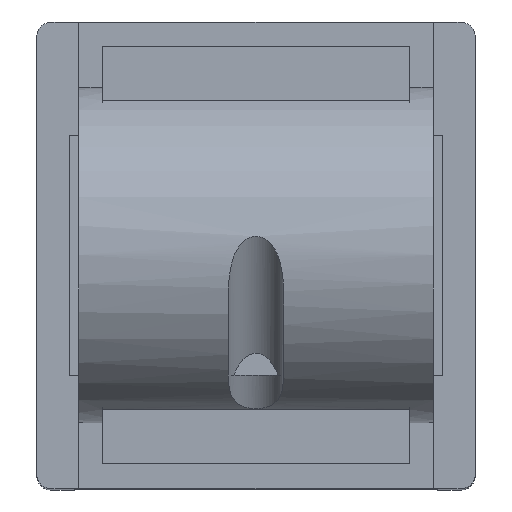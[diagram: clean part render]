
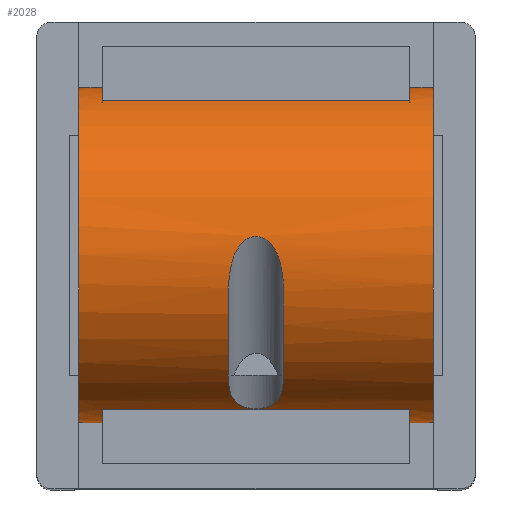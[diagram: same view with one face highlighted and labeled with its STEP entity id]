
A CAD part, top view. The second image highlights one B-rep face of the part: STEP entity #2028.
In plain terms, the highlighted cylindrical face has radius 18 mm (diameter 36 mm), a partial arc.
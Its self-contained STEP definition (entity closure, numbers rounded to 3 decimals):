
#17=FACE_BOUND('',#677,.T.);
#53=B_SPLINE_CURVE_WITH_KNOTS('',3,(#3172,#3173,#3174,#3175,#3176,#3177,
#3178,#3179,#3180,#3181,#3182,#3183,#3184,#3185,#3186,#3187,#3188,#3189,
#3190,#3191,#3192,#3193,#3194,#3195,#3196,#3197,#3198,#3199,#3200,#3201,
#3202,#3203,#3204,#3205,#3206,#3207,#3208,#3209,#3210,#3211,#3212,#3213,
#3214,#3215,#3216,#3217,#3218,#3219,#3220,#3221,#3222,#3223,#3224,#3225,
#3226,#3227,#3228,#3229),.UNSPECIFIED.,.T.,.F.,(4,2,2,2,2,2,2,2,2,2,2,2,
2,2,2,2,2,2,2,2,2,2,2,2,2,2,2,2,4),(-4.825,-4.735,
-4.644,-4.535,-4.417,-4.299,
-3.959,-3.619,-3.279,-2.939,
-2.821,-2.703,-2.594,-2.503,
-2.413,-2.322,-2.231,-2.122,
-2.004,-1.886,-1.546,-1.206,
-0.867,-0.527,-0.409,-0.291,
-0.181,-0.091,0.),.UNSPECIFIED.);
#164=LINE('',#3121,#355);
#168=LINE('',#3128,#359);
#173=LINE('',#3141,#364);
#181=LINE('',#3163,#372);
#182=LINE('',#3167,#373);
#183=LINE('',#3170,#374);
#355=VECTOR('',#2451,1.);
#359=VECTOR('',#2455,1.);
#364=VECTOR('',#2466,1.);
#372=VECTOR('',#2490,1.);
#373=VECTOR('',#2493,1.);
#374=VECTOR('',#2496,1.);
#498=CYLINDRICAL_SURFACE('',#2168,18.);
#559=FACE_OUTER_BOUND('',#676,.T.);
#676=EDGE_LOOP('',(#1504,#1505,#1506,#1507,#1508,#1509,#1510,#1511,#1512,
#1513,#1514,#1515));
#677=EDGE_LOOP('',(#1516));
#820=CIRCLE('',#2161,18.);
#821=CIRCLE('',#2167,18.);
#822=CIRCLE('',#2169,18.);
#823=CIRCLE('',#2170,18.);
#824=CIRCLE('',#2171,18.);
#825=CIRCLE('',#2172,18.);
#963=VERTEX_POINT('',#3116);
#964=VERTEX_POINT('',#3118);
#965=VERTEX_POINT('',#3120);
#968=VERTEX_POINT('',#3126);
#969=VERTEX_POINT('',#3130);
#973=VERTEX_POINT('',#3140);
#977=VERTEX_POINT('',#3158);
#978=VERTEX_POINT('',#3160);
#979=VERTEX_POINT('',#3162);
#980=VERTEX_POINT('',#3164);
#981=VERTEX_POINT('',#3166);
#982=VERTEX_POINT('',#3168);
#983=VERTEX_POINT('',#3171);
#1164=EDGE_CURVE('',#965,#964,#164,.T.);
#1168=EDGE_CURVE('',#963,#968,#168,.T.);
#1169=EDGE_CURVE('',#969,#968,#820,.T.);
#1174=EDGE_CURVE('',#973,#969,#173,.T.);
#1182=EDGE_CURVE('',#965,#973,#821,.T.);
#1183=EDGE_CURVE('',#963,#977,#822,.T.);
#1184=EDGE_CURVE('',#978,#964,#823,.T.);
#1185=EDGE_CURVE('',#978,#979,#181,.T.);
#1186=EDGE_CURVE('',#980,#979,#824,.T.);
#1187=EDGE_CURVE('',#981,#980,#182,.T.);
#1188=EDGE_CURVE('',#982,#981,#825,.T.);
#1189=EDGE_CURVE('',#982,#977,#183,.T.);
#1190=EDGE_CURVE('',#983,#983,#53,.T.);
#1504=ORIENTED_EDGE('',*,*,#1183,.F.);
#1505=ORIENTED_EDGE('',*,*,#1168,.T.);
#1506=ORIENTED_EDGE('',*,*,#1169,.F.);
#1507=ORIENTED_EDGE('',*,*,#1174,.F.);
#1508=ORIENTED_EDGE('',*,*,#1182,.F.);
#1509=ORIENTED_EDGE('',*,*,#1164,.T.);
#1510=ORIENTED_EDGE('',*,*,#1184,.F.);
#1511=ORIENTED_EDGE('',*,*,#1185,.T.);
#1512=ORIENTED_EDGE('',*,*,#1186,.F.);
#1513=ORIENTED_EDGE('',*,*,#1187,.F.);
#1514=ORIENTED_EDGE('',*,*,#1188,.F.);
#1515=ORIENTED_EDGE('',*,*,#1189,.T.);
#1516=ORIENTED_EDGE('',*,*,#1190,.T.);
#2028=ADVANCED_FACE('',(#559,#17),#498,.T.);
#2161=AXIS2_PLACEMENT_3D('',#3131,#2458,#2459);
#2167=AXIS2_PLACEMENT_3D('',#3156,#2482,#2483);
#2168=AXIS2_PLACEMENT_3D('',#3157,#2484,#2485);
#2169=AXIS2_PLACEMENT_3D('',#3159,#2486,#2487);
#2170=AXIS2_PLACEMENT_3D('',#3161,#2488,#2489);
#2171=AXIS2_PLACEMENT_3D('',#3165,#2491,#2492);
#2172=AXIS2_PLACEMENT_3D('',#3169,#2494,#2495);
#2451=DIRECTION('',(-1.,0.,0.));
#2455=DIRECTION('',(-1.,0.,0.));
#2458=DIRECTION('center_axis',(-1.,0.,0.));
#2459=DIRECTION('ref_axis',(0.,0.,-1.));
#2466=DIRECTION('',(1.,0.,0.));
#2482=DIRECTION('center_axis',(1.,0.,0.));
#2483=DIRECTION('ref_axis',(0.,0.,-1.));
#2484=DIRECTION('center_axis',(1.,0.,0.));
#2485=DIRECTION('ref_axis',(0.,0.,1.));
#2486=DIRECTION('center_axis',(1.,0.,0.));
#2487=DIRECTION('ref_axis',(0.,0.,-1.));
#2488=DIRECTION('center_axis',(-1.,0.,0.));
#2489=DIRECTION('ref_axis',(0.,0.,-1.));
#2490=DIRECTION('',(1.,0.,0.));
#2491=DIRECTION('center_axis',(1.,0.,0.));
#2492=DIRECTION('ref_axis',(0.,0.,-1.));
#2493=DIRECTION('',(-1.,0.,0.));
#2494=DIRECTION('center_axis',(-1.,0.,0.));
#2495=DIRECTION('ref_axis',(0.,0.,-1.));
#2496=DIRECTION('',(1.,0.,0.));
#3116=CARTESIAN_POINT('',(19.,18.,384.));
#3118=CARTESIAN_POINT('',(-19.,18.,384.));
#3120=CARTESIAN_POINT('',(-16.5,18.,384.));
#3121=CARTESIAN_POINT('',(0.,18.,384.));
#3126=CARTESIAN_POINT('',(16.5,18.,384.));
#3128=CARTESIAN_POINT('',(0.,18.,384.));
#3130=CARTESIAN_POINT('',(16.5,16.583,391.));
#3131=CARTESIAN_POINT('Origin',(16.5,0.,384.));
#3140=CARTESIAN_POINT('',(-16.5,16.583,391.));
#3141=CARTESIAN_POINT('',(0.,16.583,391.));
#3156=CARTESIAN_POINT('Origin',(-16.5,0.,384.));
#3157=CARTESIAN_POINT('Origin',(0.,0.,384.));
#3158=CARTESIAN_POINT('',(19.,-18.,384.));
#3159=CARTESIAN_POINT('Origin',(19.,0.,384.));
#3160=CARTESIAN_POINT('',(-19.,-18.,384.));
#3161=CARTESIAN_POINT('Origin',(-19.,0.,384.));
#3162=CARTESIAN_POINT('',(-16.5,-18.,384.));
#3163=CARTESIAN_POINT('',(0.,-18.,384.));
#3164=CARTESIAN_POINT('',(-16.5,-16.583,391.));
#3165=CARTESIAN_POINT('Origin',(-16.5,0.,384.));
#3166=CARTESIAN_POINT('',(16.5,-16.583,391.));
#3167=CARTESIAN_POINT('',(0.,-16.583,391.));
#3168=CARTESIAN_POINT('',(16.5,-18.,384.));
#3169=CARTESIAN_POINT('Origin',(16.5,0.,384.));
#3170=CARTESIAN_POINT('',(0.,-18.,384.));
#3171=CARTESIAN_POINT('',(-2.958,-9.,399.588));
#3172=CARTESIAN_POINT('Ctrl Pts',(0.,1.986,
401.89));
#3173=CARTESIAN_POINT('Ctrl Pts',(0.302,1.986,401.89));
#3174=CARTESIAN_POINT('Ctrl Pts',(0.615,1.905,401.9));
#3175=CARTESIAN_POINT('Ctrl Pts',(1.175,1.605,401.929));
#3176=CARTESIAN_POINT('Ctrl Pts',(1.424,1.388,401.948));
#3177=CARTESIAN_POINT('Ctrl Pts',(1.86,0.885,401.98));
#3178=CARTESIAN_POINT('Ctrl Pts',(2.084,0.51,401.996));
#3179=CARTESIAN_POINT('Ctrl Pts',(2.398,-0.18,402.003));
#3180=CARTESIAN_POINT('Ctrl Pts',(2.533,-0.589,401.995));
#3181=CARTESIAN_POINT('Ctrl Pts',(2.738,-1.423,401.949));
#3182=CARTESIAN_POINT('Ctrl Pts',(2.809,-1.847,401.909));
#3183=CARTESIAN_POINT('Ctrl Pts',(2.997,-3.35,401.721));
#3184=CARTESIAN_POINT('Ctrl Pts',(3.008,-4.558,401.457));
#3185=CARTESIAN_POINT('Ctrl Pts',(2.985,-6.892,400.674));
#3186=CARTESIAN_POINT('Ctrl Pts',(2.958,-8.019,400.155));
#3187=CARTESIAN_POINT('Ctrl Pts',(2.958,-9.981,399.022));
#3188=CARTESIAN_POINT('Ctrl Pts',(2.985,-10.994,398.306));
#3189=CARTESIAN_POINT('Ctrl Pts',(3.008,-12.839,396.675));
#3190=CARTESIAN_POINT('Ctrl Pts',(2.997,-13.672,395.762));
#3191=CARTESIAN_POINT('Ctrl Pts',(2.809,-14.586,394.554));
#3192=CARTESIAN_POINT('Ctrl Pts',(2.738,-14.833,394.206));
#3193=CARTESIAN_POINT('Ctrl Pts',(2.533,-15.29,393.508));
#3194=CARTESIAN_POINT('Ctrl Pts',(2.398,-15.501,393.157));
#3195=CARTESIAN_POINT('Ctrl Pts',(2.084,-15.84,392.557));
#3196=CARTESIAN_POINT('Ctrl Pts',(1.86,-16.014,392.224));
#3197=CARTESIAN_POINT('Ctrl Pts',(1.424,-16.237,391.771));
#3198=CARTESIAN_POINT('Ctrl Pts',(1.175,-16.33,391.574));
#3199=CARTESIAN_POINT('Ctrl Pts',(0.615,-16.454,391.3));
#3200=CARTESIAN_POINT('Ctrl Pts',(0.302,-16.486,391.225));
#3201=CARTESIAN_POINT('Ctrl Pts',(-0.302,-16.486,391.225));
#3202=CARTESIAN_POINT('Ctrl Pts',(-0.615,-16.454,
391.3));
#3203=CARTESIAN_POINT('Ctrl Pts',(-1.175,-16.33,391.574));
#3204=CARTESIAN_POINT('Ctrl Pts',(-1.424,-16.237,391.771));
#3205=CARTESIAN_POINT('Ctrl Pts',(-1.86,-16.014,392.224));
#3206=CARTESIAN_POINT('Ctrl Pts',(-2.084,-15.84,392.557));
#3207=CARTESIAN_POINT('Ctrl Pts',(-2.398,-15.501,393.157));
#3208=CARTESIAN_POINT('Ctrl Pts',(-2.533,-15.29,393.508));
#3209=CARTESIAN_POINT('Ctrl Pts',(-2.738,-14.833,394.206));
#3210=CARTESIAN_POINT('Ctrl Pts',(-2.809,-14.586,394.554));
#3211=CARTESIAN_POINT('Ctrl Pts',(-2.997,-13.672,395.762));
#3212=CARTESIAN_POINT('Ctrl Pts',(-3.008,-12.839,396.675));
#3213=CARTESIAN_POINT('Ctrl Pts',(-2.985,-10.994,398.306));
#3214=CARTESIAN_POINT('Ctrl Pts',(-2.958,-9.981,399.022));
#3215=CARTESIAN_POINT('Ctrl Pts',(-2.958,-8.019,400.155));
#3216=CARTESIAN_POINT('Ctrl Pts',(-2.985,-6.892,400.674));
#3217=CARTESIAN_POINT('Ctrl Pts',(-3.008,-4.558,401.457));
#3218=CARTESIAN_POINT('Ctrl Pts',(-2.997,-3.35,401.721));
#3219=CARTESIAN_POINT('Ctrl Pts',(-2.809,-1.847,401.909));
#3220=CARTESIAN_POINT('Ctrl Pts',(-2.738,-1.423,401.949));
#3221=CARTESIAN_POINT('Ctrl Pts',(-2.533,-0.589,
401.995));
#3222=CARTESIAN_POINT('Ctrl Pts',(-2.398,-0.18,
402.003));
#3223=CARTESIAN_POINT('Ctrl Pts',(-2.084,0.51,401.996));
#3224=CARTESIAN_POINT('Ctrl Pts',(-1.86,0.885,401.98));
#3225=CARTESIAN_POINT('Ctrl Pts',(-1.424,1.388,401.948));
#3226=CARTESIAN_POINT('Ctrl Pts',(-1.175,1.605,401.929));
#3227=CARTESIAN_POINT('Ctrl Pts',(-0.615,1.905,401.9));
#3228=CARTESIAN_POINT('Ctrl Pts',(-0.302,1.986,401.89));
#3229=CARTESIAN_POINT('Ctrl Pts',(0.,1.986,
401.89));
